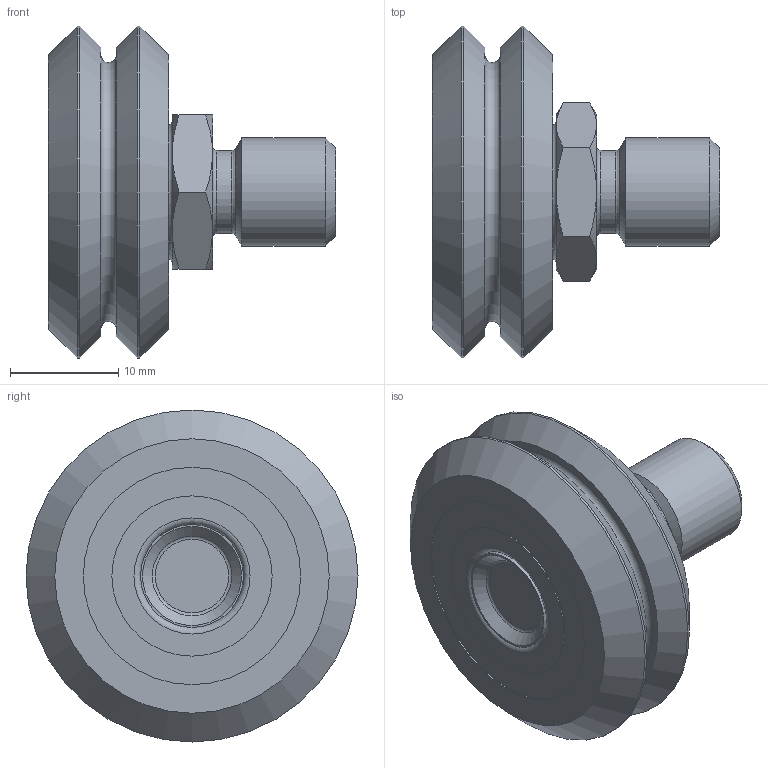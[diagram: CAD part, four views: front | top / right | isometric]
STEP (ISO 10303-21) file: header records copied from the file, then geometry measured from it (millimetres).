
FILE_DESCRIPTION( ( 'STEP AP214' ), '1' );
FILE_NAME( 'p:/temp/worker_29/temp/app_48_02019012316060745751179192d056f_000000_00_00_000000/format_0/SWSC2XA.stp', '2019-01-23T15:06:08', ( '' ), ( '' ), ' ', 'PARTsolutions', ' ' );
FILE_SCHEMA( ( 'AUTOMOTIVE_DESIGN { 1 0 10303 214 1 1 1 1 }' ) );
Length unit declared in the file: inch
Products named in the file (3): SWSC2XA; _SWSC2; _W2X
Assembly tree (2 placements, depth 2):
  SWSC2XA
    _SWSC2
    _W2X
Bounding box: 26.57 x 30.73 x 30.73 mm (x, y, z)
Volume: 8230.1 mm3; surface area: 4020.6 mm2
Topology: 2 solids, 2 shells, 65 faces, 116 edges, 69 vertices
Faces by surface type: plane 24, cone 19, cylinder 14, torus 8
Full cylindrical faces by diameter (mm): 7.696 x1, 9.515 x1, 9.525 x1, 10 x1, 14.605 x2, 14.834 x2, 20.117 x2, 20.345 x2, 30.734 x2
Entity records: 2088 total; most frequent: CARTESIAN_POINT 360, DIRECTION 256, ORIENTED_EDGE 174, AXIS2_PLACEMENT_3D 125, EDGE_LOOP 110, FACE_OUTER_BOUND 87, EDGE_CURVE 87, VERTEX_POINT 69
